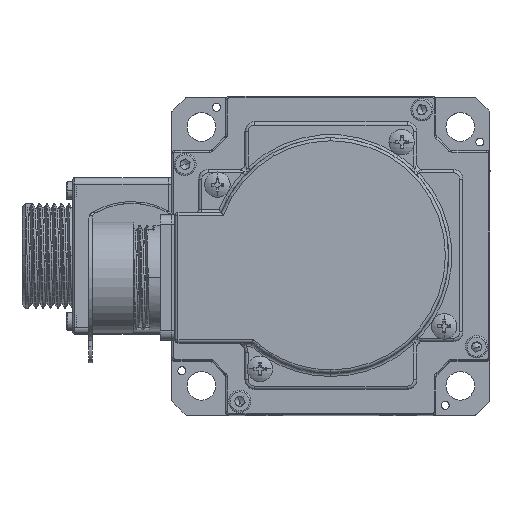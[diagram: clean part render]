
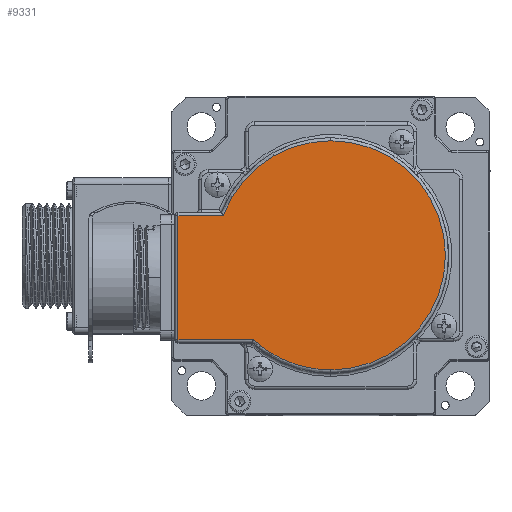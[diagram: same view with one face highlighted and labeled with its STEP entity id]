
A CAD part, top view. The second image highlights one B-rep face of the part: STEP entity #9331.
In plain terms, the highlighted planar face has unit normal (0, 0, 1).
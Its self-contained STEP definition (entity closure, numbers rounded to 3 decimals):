
#55 = CARTESIAN_POINT ( 'NONE',  ( -9.065, 12.699, 49.75 ) ) ;
#245 = DIRECTION ( 'NONE',  ( 0., 0., 1. ) ) ;
#933 = LINE ( 'NONE', #6782, #3427 ) ;
#1510 = ORIENTED_EDGE ( 'NONE', *, *, #32999, .T. ) ;
#2080 = ORIENTED_EDGE ( 'NONE', *, *, #13058, .T. ) ;
#2661 = ORIENTED_EDGE ( 'NONE', *, *, #10967, .T. ) ;
#3427 = VECTOR ( 'NONE', #7662, 1000. ) ;
#3844 = CARTESIAN_POINT ( 'NONE',  ( -33.432, -13.801, 49.75 ) ) ;
#4128 = AXIS2_PLACEMENT_3D ( 'NONE', #18458, #7293, #4705 ) ;
#4705 = DIRECTION ( 'NONE',  ( 0., 1., 0. ) ) ;
#5390 = VERTEX_POINT ( 'NONE', #34397 ) ;
#5426 = DIRECTION ( 'NONE',  ( 0., 0., 1. ) ) ;
#5504 = DIRECTION ( 'NONE',  ( 0., 1., 0. ) ) ;
#6782 = CARTESIAN_POINT ( 'NONE',  ( -57.065, -14.801, 49.75 ) ) ;
#6939 = AXIS2_PLACEMENT_3D ( 'NONE', #24438, #32175, #16170 ) ;
#7293 = DIRECTION ( 'NONE',  ( 0., 0., 1. ) ) ;
#7662 = DIRECTION ( 'NONE',  ( 0., -1., 0. ) ) ;
#7710 = EDGE_LOOP ( 'NONE', ( #13715, #28395, #20403, #1510, #2661, #2080 ) ) ;
#8076 = CARTESIAN_POINT ( 'NONE',  ( -57.065, -13.801, 49.75 ) ) ;
#8092 = CARTESIAN_POINT ( 'NONE',  ( -9.065, 12.699, 49.75 ) ) ;
#8770 = VERTEX_POINT ( 'NONE', #13236 ) ;
#9331 = ADVANCED_FACE ( 'NONE', ( #13235 ), #24039, .T. ) ;
#10353 = CARTESIAN_POINT ( 'NONE',  ( -9.065, 48.699, 49.75 ) ) ;
#10938 = CIRCLE ( 'NONE', #24159, 36. ) ;
#10967 = EDGE_CURVE ( 'NONE', #5390, #32930, #17741, .T. ) ;
#11880 = AXIS2_PLACEMENT_3D ( 'NONE', #8092, #245, #5504 ) ;
#12037 = CARTESIAN_POINT ( 'NONE',  ( -33.819, -13.801, 49.75 ) ) ;
#12964 = EDGE_CURVE ( 'NONE', #8770, #33842, #933, .T. ) ;
#13058 = EDGE_CURVE ( 'NONE', #32930, #32826, #10938, .T. ) ;
#13235 = FACE_OUTER_BOUND ( 'NONE', #7710, .T. ) ;
#13236 = CARTESIAN_POINT ( 'NONE',  ( -57.065, 25.199, 49.75 ) ) ;
#13715 = ORIENTED_EDGE ( 'NONE', *, *, #25958, .T. ) ;
#15619 = VECTOR ( 'NONE', #33500, 1000. ) ;
#16170 = DIRECTION ( 'NONE',  ( 0., 1., 0. ) ) ;
#17741 = CIRCLE ( 'NONE', #4128, 36. ) ;
#18383 = DIRECTION ( 'NONE',  ( 0., 1., 0. ) ) ;
#18458 = CARTESIAN_POINT ( 'NONE',  ( -9.065, 12.699, 49.75 ) ) ;
#18480 = EDGE_CURVE ( 'NONE', #33842, #22396, #22722, .T. ) ;
#19627 = CIRCLE ( 'NONE', #6939, 36. ) ;
#19700 = CARTESIAN_POINT ( 'NONE',  ( -42.825, 25.199, 49.75 ) ) ;
#20403 = ORIENTED_EDGE ( 'NONE', *, *, #18480, .T. ) ;
#22396 = VERTEX_POINT ( 'NONE', #3844 ) ;
#22722 = LINE ( 'NONE', #12037, #15619 ) ;
#23519 = VECTOR ( 'NONE', #31451, 1000. ) ;
#24039 = PLANE ( 'NONE',  #11880 ) ;
#24159 = AXIS2_PLACEMENT_3D ( 'NONE', #55, #5426, #18383 ) ;
#24438 = CARTESIAN_POINT ( 'NONE',  ( -9.065, 12.699, 49.75 ) ) ;
#25958 = EDGE_CURVE ( 'NONE', #32826, #8770, #33968, .T. ) ;
#28395 = ORIENTED_EDGE ( 'NONE', *, *, #12964, .T. ) ;
#31451 = DIRECTION ( 'NONE',  ( -1., 0., 0. ) ) ;
#32175 = DIRECTION ( 'NONE',  ( 0., 0., 1. ) ) ;
#32826 = VERTEX_POINT ( 'NONE', #19700 ) ;
#32930 = VERTEX_POINT ( 'NONE', #10353 ) ;
#32999 = EDGE_CURVE ( 'NONE', #22396, #5390, #19627, .T. ) ;
#33500 = DIRECTION ( 'NONE',  ( 1., 0., 0. ) ) ;
#33842 = VERTEX_POINT ( 'NONE', #8076 ) ;
#33968 = LINE ( 'NONE', #34323, #23519 ) ;
#34323 = CARTESIAN_POINT ( 'NONE',  ( -58.065, 25.199, 49.75 ) ) ;
#34397 = CARTESIAN_POINT ( 'NONE',  ( -9.065, -23.301, 49.75 ) ) ;
